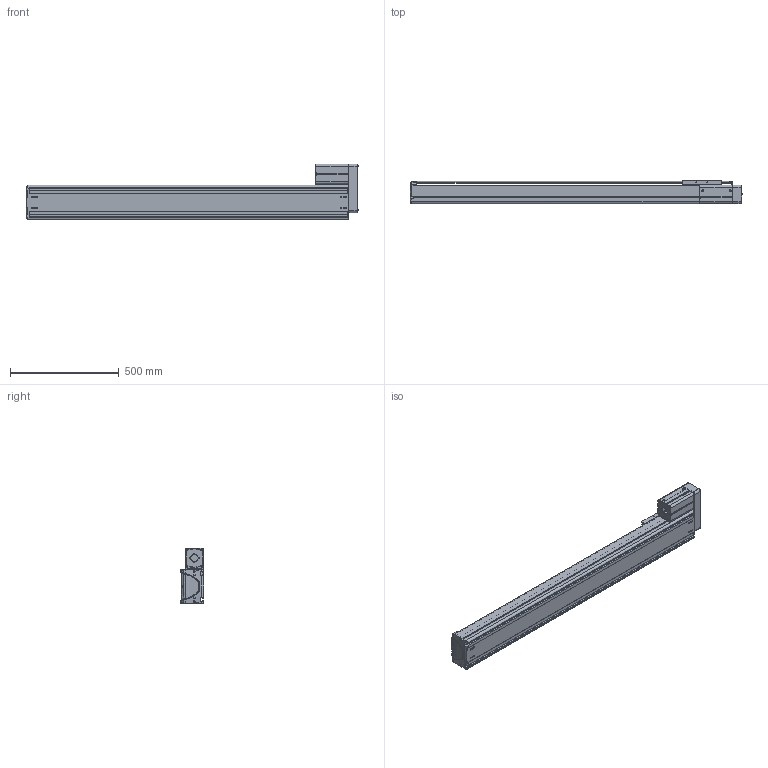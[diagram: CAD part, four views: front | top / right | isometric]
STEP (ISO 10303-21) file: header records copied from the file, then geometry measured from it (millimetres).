
FILE_DESCRIPTION((''),'2;1');
FILE_NAME('BE50F-UR-M_N-C0_IGS_PRT','2017-06-18T',(' '),(''),'PRO/ENGINEER BY PARAMETRIC TECHNOLOGY CORPORATION, 2015030','PRO/ENGINEER BY PARAMETRIC TECHNOLOGY CORPORATION, 2015030','');
FILE_SCHEMA(('CONFIG_CONTROL_DESIGN'));
Length unit declared in the file: millimetre
Products named in the file (1): BE50F-UR-M_N-C0_IGS_PRT
Bounding box: 1525.88 x 110 x 257 mm (x, y, z)
Volume: 6087012 mm3; surface area: 2515882.6 mm2
Topology: 6 solids, 150 shells, 2288 faces, 6260 edges, 4100 vertices
Faces by surface type: plane 1012, cylinder 1000, cone 137, torus 59, bspline 48, sphere 32
Entity records: 76155 total; most frequent: CARTESIAN_POINT 17561, DIRECTION 12213, ORIENTED_EDGE 11920, EDGE_CURVE 6220, AXIS2_PLACEMENT_3D 4365, VERTEX_POINT 4095, VECTOR 3483, LINE 3483
